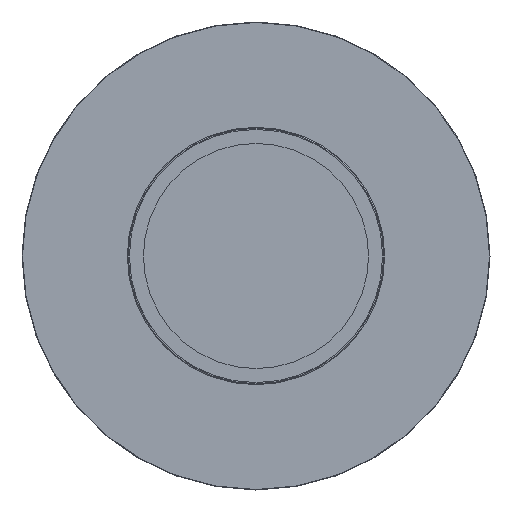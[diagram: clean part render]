
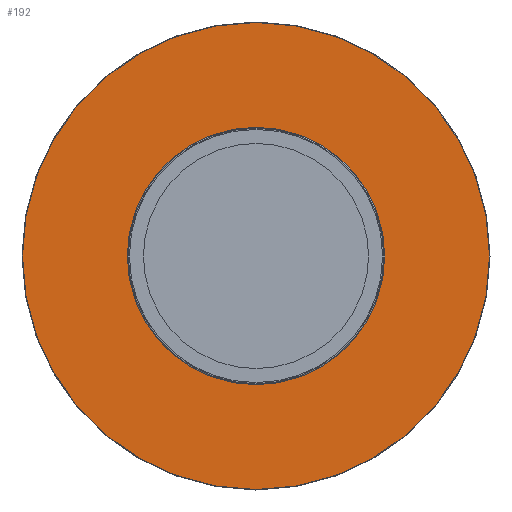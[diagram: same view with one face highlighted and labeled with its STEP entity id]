
A CAD part, front view. The second image highlights one B-rep face of the part: STEP entity #192.
In plain terms, the highlighted planar face has unit normal (0, -1, 0).
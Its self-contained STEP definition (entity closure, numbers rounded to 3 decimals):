
#165=CARTESIAN_POINT('',(0.,722.0,0.));
#166=DIRECTION('',(0.0,-1.0,0.0));
#167=DIRECTION('',(1.0,0.0,0.0));
#168=AXIS2_PLACEMENT_3D('',#165,#166,#167);
#169=PLANE('',#168);
#170=CARTESIAN_POINT('',(-499.0,722.0,0.));
#171=VERTEX_POINT('',#170);
#172=CARTESIAN_POINT('',(0.,722.0,0.));
#173=DIRECTION('',(0.0,1.0,0.0));
#174=DIRECTION('',(1.0,0.0,0.0));
#175=AXIS2_PLACEMENT_3D('',#172,#173,#174);
#176=CIRCLE('',#175,499.);
#177=EDGE_CURVE('',#171,#171,#176,.T.);
#178=ORIENTED_EDGE('',*,*,#177,.F.);
#179=EDGE_LOOP('',(#178));
#180=FACE_OUTER_BOUND('',#179,.T.);
#181=CARTESIAN_POINT('',(165.,722.0,0.));
#182=VERTEX_POINT('',#181);
#183=CARTESIAN_POINT('',(0.,722.0,0.));
#184=DIRECTION('',(0.0,-1.0,0.0));
#185=DIRECTION('',(-1.0,0.0,0.0));
#186=AXIS2_PLACEMENT_3D('',#183,#184,#185);
#187=CIRCLE('',#186,165.0);
#188=EDGE_CURVE('',#182,#182,#187,.T.);
#189=ORIENTED_EDGE('',*,*,#188,.F.);
#190=EDGE_LOOP('',(#189));
#191=FACE_BOUND('',#190,.T.);
#192=ADVANCED_FACE('',(#180,#191),#169,.T.);
